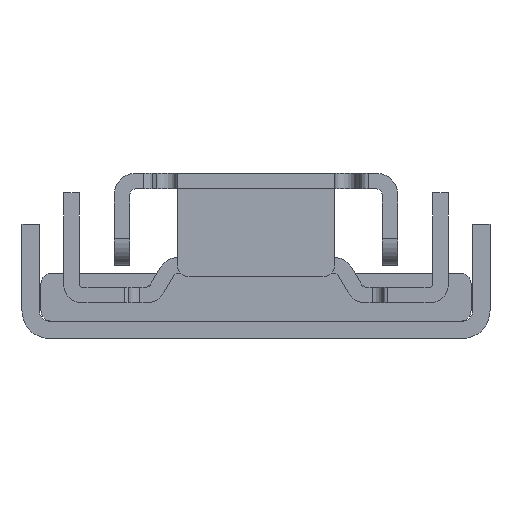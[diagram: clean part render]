
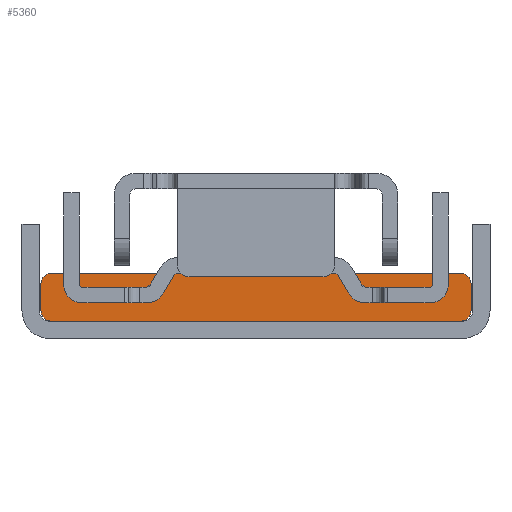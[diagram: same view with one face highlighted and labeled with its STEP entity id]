
A CAD part, front view. The second image highlights one B-rep face of the part: STEP entity #5360.
In plain terms, the highlighted planar face has unit normal (0, -1, 0) as drawn and (-1, 0, 0) by its records, which use the part's own axes.
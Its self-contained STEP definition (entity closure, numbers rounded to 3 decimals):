
#5184=DIRECTION('',(0.,0.,1.));
#5185=VECTOR('',#5184,46.6);
#5186=CARTESIAN_POINT('',(-100.5,0.,-23.3));
#5187=LINE('',#5186,#5185);
#5188=CARTESIAN_POINT('',(-100.5,1.2,23.3));
#5189=DIRECTION('',(-1.,0.,0.));
#5190=DIRECTION('',(0.,-1.,0.));
#5191=AXIS2_PLACEMENT_3D('',#5188,#5189,#5190);
#5193=CARTESIAN_POINT('',(-100.5,1.2,-23.3));
#5194=DIRECTION('',(-1.,0.,0.));
#5195=DIRECTION('',(0.,0.,-1.));
#5196=AXIS2_PLACEMENT_3D('',#5193,#5194,#5195);
#5198=DIRECTION('',(0.,1.,0.));
#5199=VECTOR('',#5198,3.1);
#5200=CARTESIAN_POINT('',(-100.5,1.2,-24.5));
#5201=LINE('',#5200,#5199);
#5202=CARTESIAN_POINT('',(-100.5,4.3,-23.3));
#5203=DIRECTION('',(-1.,0.,0.));
#5204=DIRECTION('',(0.,1.,0.));
#5205=AXIS2_PLACEMENT_3D('',#5202,#5203,#5204);
#5207=CARTESIAN_POINT('',(-100.5,4.3,23.3));
#5208=DIRECTION('',(-1.,0.,0.));
#5209=DIRECTION('',(0.,0.,1.));
#5210=AXIS2_PLACEMENT_3D('',#5207,#5208,#5209);
#5240=DIRECTION('',(0.,1.,0.));
#5241=VECTOR('',#5240,3.1);
#5242=CARTESIAN_POINT('',(-100.5,1.2,24.5));
#5243=LINE('',#5242,#5241);
#5252=DIRECTION('',(0.,0.,1.));
#5253=VECTOR('',#5252,46.6);
#5254=CARTESIAN_POINT('',(-100.5,5.5,-23.3));
#5255=LINE('',#5254,#5253);
#5276=CARTESIAN_POINT('',(-100.5,0.,23.3));
#5277=CARTESIAN_POINT('',(-100.5,1.2,24.5));
#5278=VERTEX_POINT('',#5276);
#5279=VERTEX_POINT('',#5277);
#5288=CARTESIAN_POINT('',(-100.5,4.3,24.5));
#5289=VERTEX_POINT('',#5288);
#5290=CARTESIAN_POINT('',(-100.5,5.5,23.3));
#5291=VERTEX_POINT('',#5290);
#5292=CARTESIAN_POINT('',(-100.5,5.5,-23.3));
#5293=CARTESIAN_POINT('',(-100.5,4.3,-24.5));
#5294=VERTEX_POINT('',#5292);
#5295=VERTEX_POINT('',#5293);
#5304=CARTESIAN_POINT('',(-100.5,1.2,-24.5));
#5305=VERTEX_POINT('',#5304);
#5306=CARTESIAN_POINT('',(-100.5,0.,-23.3));
#5307=VERTEX_POINT('',#5306);
#5339=CARTESIAN_POINT('',(-100.5,0.,-24.5));
#5340=DIRECTION('',(-1.,0.,0.));
#5341=DIRECTION('',(0.,0.,1.));
#5342=AXIS2_PLACEMENT_3D('',#5339,#5340,#5341);
#5343=PLANE('',#5342);
#5344=ORIENTED_EDGE('',*,*,#5329,.F.);
#5345=ORIENTED_EDGE('',*,*,#5319,.F.);
#5347=ORIENTED_EDGE('',*,*,#5346,.F.);
#5349=ORIENTED_EDGE('',*,*,#5348,.T.);
#5351=ORIENTED_EDGE('',*,*,#5350,.F.);
#5353=ORIENTED_EDGE('',*,*,#5352,.T.);
#5355=ORIENTED_EDGE('',*,*,#5354,.F.);
#5357=ORIENTED_EDGE('',*,*,#5356,.F.);
#5358=EDGE_LOOP('',(#5344,#5345,#5347,#5349,#5351,#5353,#5355,#5357));
#5359=FACE_OUTER_BOUND('',#5358,.F.);
#5360=ADVANCED_FACE('',(#5359),#5343,.T.);
#5192=CIRCLE('',#5191,1.2);
#5197=CIRCLE('',#5196,1.2);
#5206=CIRCLE('',#5205,1.2);
#5211=CIRCLE('',#5210,1.2);
#5319=EDGE_CURVE('',#5307,#5278,#5187,.T.);
#5329=EDGE_CURVE('',#5278,#5279,#5192,.T.);
#5346=EDGE_CURVE('',#5305,#5307,#5197,.T.);
#5348=EDGE_CURVE('',#5305,#5295,#5201,.T.);
#5350=EDGE_CURVE('',#5294,#5295,#5206,.T.);
#5352=EDGE_CURVE('',#5294,#5291,#5255,.T.);
#5354=EDGE_CURVE('',#5289,#5291,#5211,.T.);
#5356=EDGE_CURVE('',#5279,#5289,#5243,.T.);
